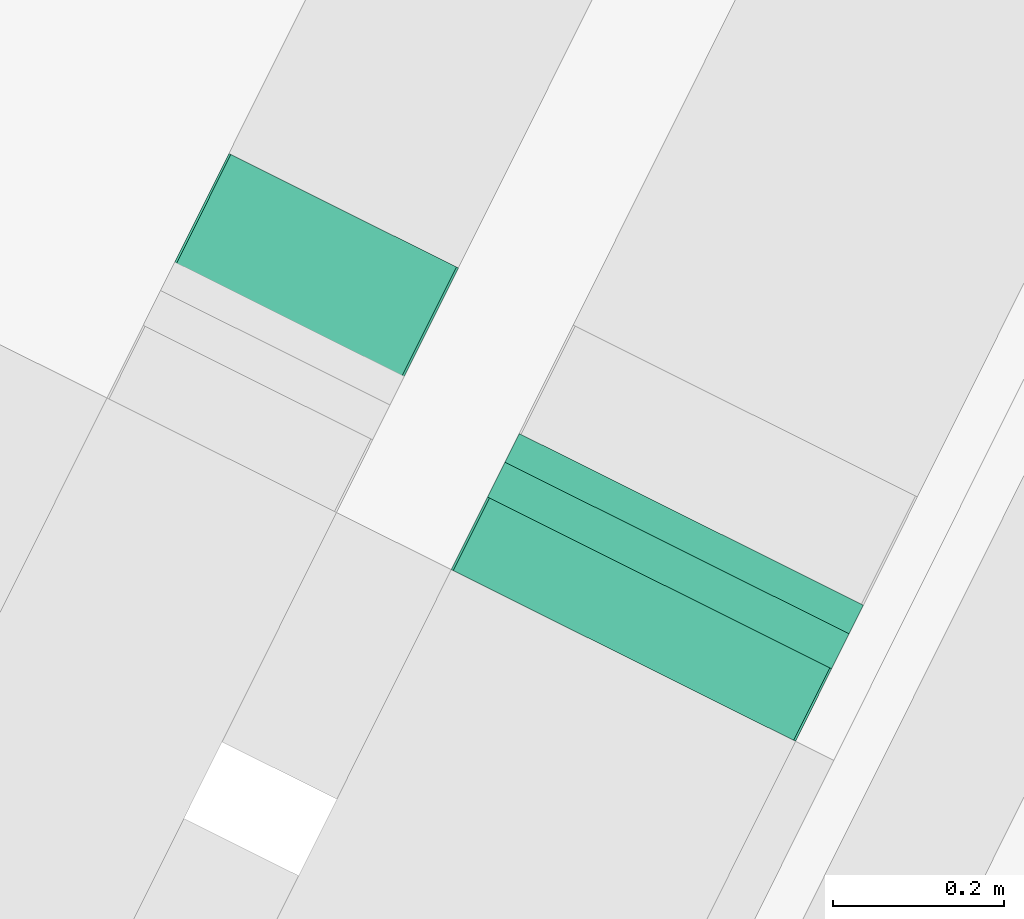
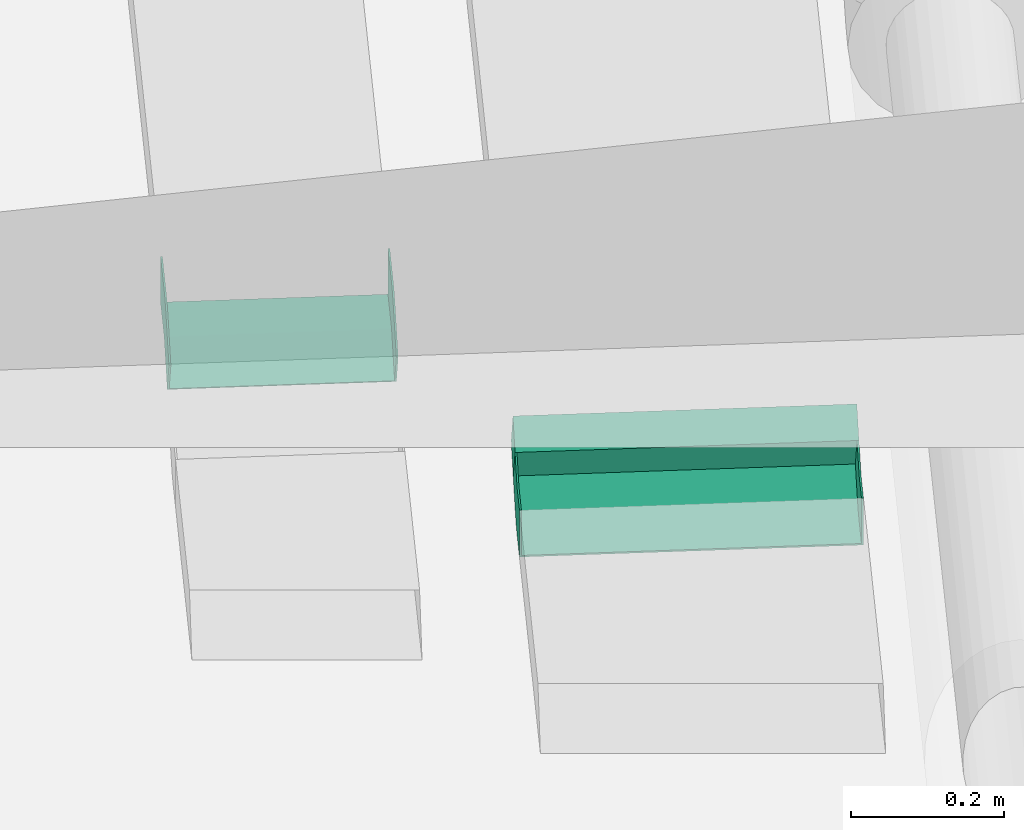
# One storey, part 76 of 91: 2 flow fittings, 1 flow segment.
"""IFC2X3 building model written with IfcOpenShell, lengths in metres."""

from ifc_helpers import new_model, entity, si_unit, converted_unit, derived_unit, direction, frame, frame_2d, origin, place, context, subcontext, project, spatial, rectangle, extrude, faceted_brep, source, transform, mapped, type_object, type_shapes, element, save


model = new_model("IFC2X3")

# Units and contexts
model_context = context("Model", 3, precision=1e-05, world=origin(), true_north=direction((0.894925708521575, 0.446215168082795)))
context_of_model = context(None, 3, precision=1e-05, world=origin(), true_north=direction((0.894925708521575, 0.446215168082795)))
body_context = subcontext(model_context, "Body", "Model", "MODEL_VIEW")
ifc_project = project(units=[si_unit("LENGTHUNIT", "METRE"), si_unit("AREAUNIT", "SQUARE_METRE"), si_unit("VOLUMEUNIT", "CUBIC_METRE"), converted_unit("PLANEANGLEUNIT", "DEGREE", entity("IfcRatioMeasure", 0.0174532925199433), si_unit("PLANEANGLEUNIT", "RADIAN"), dimensions=[0, 0, 0, 0, 0, 0, 0]), si_unit("MASSUNIT", "GRAM", prefix="KILO"), si_unit("TIMEUNIT", "SECOND"), si_unit("FREQUENCYUNIT", "HERTZ"), si_unit("THERMODYNAMICTEMPERATUREUNIT", "DEGREE_CELSIUS"), derived_unit("THERMALTRANSMITTANCEUNIT", [(si_unit("MASSUNIT", "GRAM", prefix="KILO"), 1), (si_unit("THERMODYNAMICTEMPERATUREUNIT", "KELVIN"), -1), (si_unit("TIMEUNIT", "SECOND"), -3)]), derived_unit("VOLUMETRICFLOWRATEUNIT", [(si_unit("LENGTHUNIT", "METRE"), 3), (si_unit("TIMEUNIT", "SECOND"), -1)]), si_unit("ELECTRICCURRENTUNIT", "AMPERE"), si_unit("ELECTRICVOLTAGEUNIT", "VOLT"), si_unit("POWERUNIT", "WATT"), si_unit("FORCEUNIT", "NEWTON", prefix="KILO"), si_unit("ILLUMINANCEUNIT", "LUX"), si_unit("LUMINOUSFLUXUNIT", "LUMEN"), si_unit("LUMINOUSINTENSITYUNIT", "CANDELA"), si_unit("PRESSUREUNIT", "PASCAL")], contexts=[model_context, context_of_model])

# Site, building, storey
site_placement = place(None, frame((218.228324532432, 584.720189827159, 0.0), z_axis=(0.0, 0.0, 1.0), x_axis=(0.446215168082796, 0.894925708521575, 0.0)))
site = spatial("IfcSite", under=ifc_project, at=site_placement, Name="Default", CompositionType="ELEMENT")
building_placement = place(site_placement, origin())
building = spatial("IfcBuilding", under=site, at=building_placement, CompositionType="ELEMENT")
storey_placement = place(building_placement, origin())
storey = spatial("IfcBuildingStorey", under=building, at=storey_placement, Name="0 - Piano Terra", CompositionType="ELEMENT", Elevation=0.0)

# Flow segment
cable_carrier_segment_type = type_object("IfcCableCarrierSegmentType", Name="Passerella con raccordi:Passerella canale", PredefinedType="NOTDEFINED")
flow_segment_placement = place(storey_placement, frame((-12.3895004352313, -4.20107899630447, 3.59822448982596)))
element("IfcFlowSegment", 1, at=flow_segment_placement, inside=storey, type_object=cable_carrier_segment_type, Name="Passerella con raccordi:Passerella canale", ObjectType="Passerella con raccordi:Passerella canale", context=body_context, shape_type="SweptSolid", body=[
    extrude(rectangle(XDim=0.0750000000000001, YDim=0.0527002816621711, at=frame_2d((-2.72351585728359e-16, 4.68375338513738e-16), x_axis=(0.0, 1.0))), frame((0.0415698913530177, 0.0, 0.045651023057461), z_axis=(0.0, 1.0, 0.0), x_axis=(0.866025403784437, 0.0, 0.500000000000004)), (0.0, 0.0, 1.0), 0.45),
])

# Flow fittings
cable_carrier_fitting_type_1 = type_object("IfcCableCarrierFittingType", Name="Standard", PredefinedType="NOTDEFINED")
shared_shape_1 = source(origin(), body_context, "Body", "Brep", [
    faceted_brep([(-0.0858988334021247, -0.0375000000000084, -0.150000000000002), (-0.0858988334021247, -0.0375000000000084, -0.147460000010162), (-0.0858988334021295, 0.0349600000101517, -0.147460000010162), (-0.0858988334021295, 0.0349600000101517, 0.147460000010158), (-0.0858988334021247, -0.0375000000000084, 0.147460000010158), (-0.0858988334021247, -0.0375000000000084, 0.149999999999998), (-0.0858988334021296, 0.0374999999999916, 0.149999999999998), (-0.0858988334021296, 0.0374999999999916, -0.150000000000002), (0.0556405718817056, 0.0754253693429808, -0.150000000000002), (0.0556405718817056, 0.0754253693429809, 0.149999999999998), (0.0931405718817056, 0.0104734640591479, 0.149999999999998), (0.0931405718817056, 0.0104734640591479, 0.147460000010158), (0.0569105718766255, 0.0732256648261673, 0.147460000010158), (0.0569105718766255, 0.0732256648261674, -0.147460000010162), (0.0931405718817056, 0.0104734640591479, -0.147460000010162), (0.0931405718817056, 0.0104734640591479, -0.150000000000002), (-0.0108988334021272, -0.0375000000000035, 0.149999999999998), (-0.000782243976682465, -0.0361681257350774, 0.149999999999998), (0.0093343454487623, -0.0348362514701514, 0.149999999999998), (0.0187615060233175, -0.0309313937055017, 0.149999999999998), (0.0281886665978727, -0.027026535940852, 0.149999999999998), (-0.00931133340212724, 0.0379253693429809, 0.149999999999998), (-0.0100770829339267, 0.0376081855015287, 0.149999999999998), (-0.0108988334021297, 0.0374999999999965, 0.149999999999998), (-0.0108988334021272, 0.0374999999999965, 0.142222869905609), (-0.0108988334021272, 0.0374999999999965, 0.136736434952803), (-0.0108988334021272, 0.0374999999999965, 0.131249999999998), (-0.0108988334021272, 0.0374999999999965, 0.121874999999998), (-0.0108988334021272, 0.0374999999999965, 0.112499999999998), (-0.0108988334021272, 0.0374999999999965, 0.103124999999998), (-0.0108988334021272, 0.0374999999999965, 0.0937499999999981), (-0.0108988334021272, 0.0374999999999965, 0.0890624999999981), (-0.0108988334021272, 0.0374999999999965, 0.0843749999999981), (-0.0108988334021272, 0.0374999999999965, 0.0749999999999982), (-0.0108988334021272, 0.0374999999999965, 0.0656249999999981), (-0.0108988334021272, 0.0374999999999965, 0.0562499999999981), (-0.0108988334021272, 0.0374999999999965, 0.0468749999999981), (-0.0108988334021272, 0.0374999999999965, 0.0374999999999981), (-0.0108988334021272, 0.0374999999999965, 0.0328124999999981), (-0.0108988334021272, 0.0374999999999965, 0.0281249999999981), (-0.0108988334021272, 0.0374999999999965, 0.0187499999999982), (-0.0108988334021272, 0.0374999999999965, 0.00937499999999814), (-0.0108988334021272, 0.0374999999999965, 0.00468749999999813), (-0.0108988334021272, 0.0374999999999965, 0.0), (-0.0108988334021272, 0.0374999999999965, -0.00548643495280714), (-0.0108988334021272, 0.0374999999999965, -0.0109728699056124), (-0.0108988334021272, 0.0374999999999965, -0.0164593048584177), (-0.0108988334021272, 0.0374999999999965, -0.021945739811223), (-0.0108988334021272, 0.0374999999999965, -0.0274321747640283), (-0.0108988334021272, 0.0374999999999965, -0.0329186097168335), (-0.0108988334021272, 0.0374999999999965, -0.0384050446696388), (-0.0108988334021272, 0.0374999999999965, -0.0438914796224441), (-0.0108988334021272, 0.0374999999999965, -0.0493779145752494), (-0.0108988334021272, 0.0374999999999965, -0.0548643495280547), (-0.0108988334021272, 0.0374999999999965, -0.06035078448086), (-0.0108988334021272, 0.0374999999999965, -0.0658372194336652), (-0.0108988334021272, 0.0374999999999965, -0.0713236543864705), (-0.0108988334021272, 0.0374999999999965, -0.0768100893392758), (-0.0108988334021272, 0.0374999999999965, -0.0822965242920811), (-0.0108988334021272, 0.0374999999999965, -0.0877829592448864), (-0.0108988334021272, 0.0374999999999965, -0.0955600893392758), (-0.0108988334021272, 0.0374999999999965, -0.103337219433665), (-0.0108988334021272, 0.0374999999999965, -0.111114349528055), (-0.0108988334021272, 0.0374999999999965, -0.118891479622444), (-0.0108988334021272, 0.0374999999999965, -0.126668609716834), (-0.0108988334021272, 0.0374999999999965, -0.134445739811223), (-0.0108988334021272, 0.0374999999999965, -0.142222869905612), (-0.0108988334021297, 0.0374999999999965, -0.150000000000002), (-0.0100770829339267, 0.0376081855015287, -0.150000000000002), (-0.00931133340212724, 0.0379253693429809, -0.150000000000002), (0.0281886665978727, -0.027026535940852, -0.150000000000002), (0.0187615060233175, -0.0309313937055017, -0.150000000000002), (0.0093343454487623, -0.0348362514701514, -0.150000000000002), (-0.00136101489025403, -0.0362443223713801, -0.150000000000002), (-0.0108988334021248, -0.0375000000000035, -0.150000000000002), (-0.0108988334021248, -0.0375000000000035, -0.147460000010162), (-0.0108988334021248, -0.0375000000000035, 0.147460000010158), (-0.000782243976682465, -0.0361681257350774, -0.147460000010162), (0.0093343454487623, -0.0348362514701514, -0.147460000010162), (0.0187615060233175, -0.0309313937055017, -0.147460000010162), (0.0281886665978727, -0.027026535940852, -0.147460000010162), (-0.00804133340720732, 0.0357256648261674, -0.147460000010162), (-0.00941968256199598, 0.0351547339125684, -0.147460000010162), (-0.0108988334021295, 0.0349600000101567, -0.147460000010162), (-0.0108988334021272, 0.0349600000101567, -0.137025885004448), (-0.0108988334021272, 0.0349600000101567, -0.126591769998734), (-0.0108988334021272, 0.0349600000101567, -0.11615765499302), (-0.0108988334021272, 0.0349600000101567, -0.105723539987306), (-0.0108988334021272, 0.0349600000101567, -0.0952894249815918), (-0.0108988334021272, 0.0349600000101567, -0.0848553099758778), (-0.0108988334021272, 0.0349600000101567, -0.0744211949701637), (-0.0108988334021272, 0.0349600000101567, -0.0639870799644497), (-0.0108988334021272, 0.0349600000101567, -0.0479903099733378), (-0.0108988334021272, 0.0349600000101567, -0.0319935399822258), (-0.0108988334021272, 0.0349600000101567, -0.0159967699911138), (-0.0108988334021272, 0.0349600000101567, 0.0), (-0.0108988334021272, 0.0349600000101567, 0.0184325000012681), (-0.0108988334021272, 0.0349600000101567, 0.0368650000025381), (-0.0108988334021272, 0.0349600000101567, 0.0552975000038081), (-0.0108988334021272, 0.0349600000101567, 0.0737300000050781), (-0.0108988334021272, 0.0349600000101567, 0.0921625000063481), (-0.0108988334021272, 0.0349600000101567, 0.110595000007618), (-0.0108988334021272, 0.0349600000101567, 0.12659176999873), (-0.0108988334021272, 0.0349600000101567, 0.137025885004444), (-0.0108988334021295, 0.0349600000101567, 0.147460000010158), (-0.00941968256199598, 0.0351547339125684, 0.147460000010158), (-0.00804133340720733, 0.0357256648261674, 0.147460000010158), (0.0281886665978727, -0.027026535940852, 0.147460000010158), (0.0193008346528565, -0.0307079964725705, 0.147460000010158), (0.0093343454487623, -0.0348362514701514, 0.147460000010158), (-0.000782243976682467, -0.0361681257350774, 0.147460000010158), (-0.0100160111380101, 0.0376252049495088, 0.0878571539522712), (-0.00931133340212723, 0.0379253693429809, -0.0786763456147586), (-0.0101159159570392, 0.0375980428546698, -0.0740668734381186), (-0.00931133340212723, 0.0379253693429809, -0.0677034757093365), (-0.00931133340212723, 0.0379253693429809, -0.0731899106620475), (-0.00931133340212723, 0.0379253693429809, -0.0512441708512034), (-0.00931133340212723, 0.0379253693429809, -0.0567306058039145), (-0.0101159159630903, 0.0375980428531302, -0.052121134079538), (-0.00931133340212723, 0.0379253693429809, -0.0457577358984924), (-0.0100430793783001, 0.0376174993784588, 0.017385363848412), (-0.0100062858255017, 0.0376280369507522, 0.0107980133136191), (-0.00999532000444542, 0.0376312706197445, 0.122780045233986), (-0.0101719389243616, 0.0375843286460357, 0.0236284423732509), (-0.00931133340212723, 0.0379253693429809, 0.0200794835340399), (-0.00931133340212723, 0.0379253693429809, -0.146111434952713), (-0.00931133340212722, 0.0379253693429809, 0.134445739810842), (-0.0100770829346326, 0.0376081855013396, 0.138334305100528), (-0.00931133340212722, 0.0379253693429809, 0.14222286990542), (-0.0100060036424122, 0.0376281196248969, -0.142569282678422), (-0.010097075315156, 0.0376028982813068, 0.0605630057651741), (-0.00931133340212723, 0.0379253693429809, 0.0566744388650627), (-0.0100663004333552, 0.0376110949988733, 0.054247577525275), (-0.0100389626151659, 0.0376186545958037, -0.119824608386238), (-0.0101157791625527, 0.0375980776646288, -0.129790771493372), (-0.01011591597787, 0.0375980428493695, -0.0301753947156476), (-0.0100662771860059, 0.0376111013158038, 0.0824060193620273), (-0.00931133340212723, 0.0379253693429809, 0.0800058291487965), (-0.0099977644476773, 0.0376305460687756, 0.0761172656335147), (-0.0100563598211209, 0.0376138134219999, 0.0388108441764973), (-0.00931133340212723, 0.0379253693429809, 0.0411201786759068), (-0.00931133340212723, 0.0379253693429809, 0.0333430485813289), (-0.00931133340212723, 0.0379253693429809, -0.0347848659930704), (-0.00931133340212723, 0.0379253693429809, -0.0238119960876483), (-0.00931133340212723, 0.0379253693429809, -0.0292984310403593), (-0.00931133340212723, 0.0379253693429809, -0.0128391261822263), (-0.0101159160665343, 0.0375980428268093, -0.00822965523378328), (-0.00931133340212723, 0.0379253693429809, -0.00186625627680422), (-0.00931133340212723, 0.0379253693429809, -0.00735269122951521), (-0.010022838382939, 0.0376232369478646, 0.144167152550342), (-0.00931133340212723, 0.0379253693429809, 0.0488973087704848), (-0.0100105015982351, 0.0376268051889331, 0.0450087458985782), (-0.0100992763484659, 0.0376023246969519, 0.00234375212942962), (-0.0101111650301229, 0.0375992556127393, 0.06937590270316), (-0.00931133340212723, 0.0379253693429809, 0.0145930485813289), (-0.0100494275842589, 0.0376157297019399, -0.136209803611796), (-0.0101258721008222, 0.0375955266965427, -0.0371719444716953), (-0.00931133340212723, 0.0379253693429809, -0.0402713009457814), (-0.0100191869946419, 0.0376242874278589, -0.0434785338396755), (-0.0101258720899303, 0.0375955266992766, -0.0591176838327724), (-0.0100602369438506, 0.0376127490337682, -0.0934055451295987), (-0.0100098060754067, 0.0376270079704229, -0.11311245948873), (-0.010067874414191, 0.0376106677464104, 0.0994486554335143), (-0.0100492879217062, 0.0376157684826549, 0.0933153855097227), (-0.00931133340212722, 0.0379253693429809, 0.111114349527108), (-0.00931133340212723, 0.0379253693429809, 0.10333721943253), (-0.010108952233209, 0.0375998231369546, 0.109805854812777), (-0.0100522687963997, 0.0376149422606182, 0.132170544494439), (-0.00931133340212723, 0.0379253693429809, -0.13902713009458), (-0.010106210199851, 0.0376005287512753, 0.116092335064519), (-0.00931133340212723, 0.0379253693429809, -0.133540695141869), (-0.0101258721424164, 0.0375955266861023, -0.0152262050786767), (-0.0100191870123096, 0.0376242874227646, -0.0215327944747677), (-0.00931133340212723, 0.0379253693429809, -0.0183255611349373), (-0.0101258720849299, 0.0375955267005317, -0.0810634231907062), (-0.0100191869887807, 0.037624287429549, -0.0654242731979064), (-0.00931133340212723, 0.0379253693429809, -0.0622170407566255), (-0.00931133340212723, 0.0379253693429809, -0.0896492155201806), (-0.00931133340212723, 0.0379253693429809, -0.0951356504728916), (-0.0100191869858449, 0.0376242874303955, -0.0873700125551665), (-0.00931133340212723, 0.0379253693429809, -0.0841627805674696), (-0.00931133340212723, 0.0379253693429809, -0.122567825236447), (-0.00931133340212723, 0.0379253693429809, -0.117081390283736), (-0.0101042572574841, 0.0376010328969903, -0.105576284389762), (-0.00931133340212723, 0.0379253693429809, -0.106108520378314), (-0.00931133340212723, 0.0379253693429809, -0.111594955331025), (-0.00931133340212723, 0.0379253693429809, -0.100622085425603), (-0.00931133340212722, 0.0379253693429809, 0.126668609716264), (-0.00931133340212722, 0.0379253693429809, 0.118891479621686), (-0.00931133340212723, 0.0379253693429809, -0.128054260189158), (-0.00931133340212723, 0.0379253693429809, 0.0955600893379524), (-0.00931133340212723, 0.0379253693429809, 0.0877829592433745), (-0.00931133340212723, 0.0379253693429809, 0.0722286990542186), (-0.00931133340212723, 0.0379253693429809, 0.0644515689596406), (-0.0100612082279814, 0.0376124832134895, 0.0304687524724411), (-0.00931133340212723, 0.0379253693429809, 0.0255659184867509), (-0.00931133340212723, 0.0379253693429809, 0.00910661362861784), (-0.00931133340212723, 0.0379253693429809, 0.00362017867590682), (-0.0100571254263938, 0.0376136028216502, -0.0994486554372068), (-0.00941968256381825, 0.0351547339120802, -0.0559886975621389), (-0.00804133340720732, 0.0357256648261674, -0.0535529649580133), (-0.00943516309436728, 0.0351506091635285, -0.0450563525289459), (-0.00941968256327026, 0.035154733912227, -0.0670727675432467), (-0.00941968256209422, 0.0351547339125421, -0.131808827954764), (-0.00941968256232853, 0.0351547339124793, -0.118338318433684), (-0.00941968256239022, 0.0351547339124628, -0.107538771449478), (-0.00941968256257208, 0.0351547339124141, -0.0931087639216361), (-0.00941968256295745, 0.0351547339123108, -0.0796382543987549), (-0.00804133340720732, 0.0357256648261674, 0.131463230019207), (-0.00951383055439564, 0.0351303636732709, 0.119704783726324), (-0.00804133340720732, 0.0357256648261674, 0.115466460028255), (-0.009539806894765, 0.035123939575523, 0.0276487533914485), (-0.00938820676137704, 0.0351632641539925, 0.0142687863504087), (-0.00944772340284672, 0.0351472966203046, 0.0964175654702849), (-0.00938732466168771, 0.0351635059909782, 0.00298298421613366), (-0.00804133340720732, 0.0357256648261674, -0.137025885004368), (-0.00804133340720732, 0.0357256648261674, -0.126591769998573), (-0.00804133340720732, 0.0357256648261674, -0.116157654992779), (-0.00804133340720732, 0.0357256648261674, -0.105723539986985), (-0.00804133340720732, 0.0357256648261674, -0.0952894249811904), (-0.00804133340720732, 0.0357256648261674, -0.0848553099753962), (-0.00804133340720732, 0.0357256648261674, -0.0744211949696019), (-0.00804133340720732, 0.0357256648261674, -0.0639870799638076), (-0.00960988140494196, 0.0351072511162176, 0.0843997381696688), (-0.00931691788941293, 0.0351833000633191, 0.0731869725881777), (-0.00804133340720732, 0.0357256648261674, -0.0326847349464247), (-0.00804133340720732, 0.0357256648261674, -0.0222506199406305), (-0.00939822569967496, 0.0351605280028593, -0.0274676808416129), (-0.00938352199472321, 0.0351645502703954, 0.0609207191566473), (-0.00804133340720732, 0.0357256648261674, 0.0194858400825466), (-0.00804133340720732, 0.0357256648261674, 0.0354826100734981), (-0.0092916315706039, 0.0351906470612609, -0.0159019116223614), (-0.00950624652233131, 0.0351322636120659, 0.131808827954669), (-0.0092516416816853, 0.0352025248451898, 0.107597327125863), (-0.00804133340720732, 0.0357256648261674, 0.0834729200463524), (-0.00804133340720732, 0.0357256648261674, 0.0994696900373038), (-0.00804133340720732, 0.0357256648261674, 0.0674761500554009), (-0.00804133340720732, 0.0357256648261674, -0.043118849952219), (-0.00939896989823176, 0.0351603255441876, 0.0385250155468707), (-0.00953825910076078, 0.0351243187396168, 0.0497283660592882), (-0.00804133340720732, 0.0357256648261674, 0.00905172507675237), (-0.00804133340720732, 0.0357256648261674, -0.0118165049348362), (-0.00804133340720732, 0.0357256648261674, -0.00138238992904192), (-0.00804133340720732, 0.0357256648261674, 0.0514793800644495)], [[[0, 1, 2, 3, 4, 5, 6, 7]], [[8, 9, 10, 11, 12, 13, 14, 15]], [[5, 16, 17, 18, 19, 20, 10, 9, 21, 22, 23, 6]], [[7, 6, 23, 24, 25, 26, 27, 28, 29, 30, 31, 32, 33, 34, 35, 36, 37, 38, 39, 40, 41, 42, 43, 44, 45, 46, 47, 48, 49, 50, 51, 52, 53, 54, 55, 56, 57, 58, 59, 60, 61, 62, 63, 64, 65, 66, 67]], [[7, 67, 68, 69, 8, 15, 70, 71, 72, 73, 74, 0]], [[1, 0, 74, 75]], [[5, 4, 76, 16]], [[1, 75, 77, 78, 79, 80, 14, 13, 81, 82, 83, 2]], [[3, 2, 83, 84, 85, 86, 87, 88, 89, 90, 91, 92, 93, 94, 95, 96, 97, 98, 99, 100, 101, 102, 103, 104]], [[3, 104, 105, 106, 12, 11, 107, 108, 109, 110, 76, 4]], [[31, 111, 32]], [[112, 113, 114, 115]], [[116, 117, 118, 119]], [[57, 56, 113]], [[53, 52, 118]], [[120, 121, 41]], [[122, 27, 26]], [[123, 124, 120]], [[125, 69, 68]], [[126, 127, 128]], [[68, 129, 125]], [[130, 131, 132]], [[133, 134, 64]], [[49, 48, 135]], [[136, 137, 138]], [[139, 140, 141]], [[142, 135, 143, 144]], [[145, 146, 147, 148]], [[149, 128, 127]], [[150, 151, 132]], [[152, 147, 146]], [[33, 153, 34]], [[151, 140, 139]], [[120, 154, 121]], [[129, 66, 155]], [[156, 157, 158]], [[118, 117, 159]], [[59, 160, 60]], [[161, 63, 62]], [[34, 153, 130]], [[162, 163, 30]], [[164, 165, 166]], [[26, 25, 167]], [[129, 168, 125]], [[169, 164, 166]], [[127, 24, 149]], [[155, 134, 170]], [[127, 126, 167]], [[65, 155, 66]], [[149, 24, 23]], [[68, 67, 66]], [[25, 24, 127]], [[149, 22, 21]], [[146, 145, 171]], [[135, 142, 156]], [[172, 171, 173]], [[113, 112, 174]], [[175, 159, 176]], [[177, 178, 160]], [[179, 174, 180]], [[127, 167, 25]], [[155, 168, 129]], [[66, 129, 68]], [[170, 168, 155]], [[133, 181, 134]], [[161, 182, 133]], [[65, 134, 155]], [[183, 161, 62]], [[133, 63, 161]], [[181, 133, 182]], [[63, 133, 64]], [[184, 185, 183, 186]], [[187, 122, 167]], [[42, 152, 44, 43]], [[122, 26, 167]], [[188, 122, 187]], [[169, 122, 188]], [[167, 126, 187]], [[189, 170, 134, 181]], [[28, 27, 169]], [[122, 169, 27]], [[166, 29, 28]], [[166, 28, 169]], [[169, 188, 164]], [[162, 190, 163]], [[190, 162, 165]], [[162, 29, 166]], [[165, 162, 166]], [[29, 162, 30]], [[138, 33, 136]], [[163, 190, 191]], [[32, 111, 136]], [[137, 192, 138]], [[32, 136, 33]], [[136, 191, 137]], [[192, 153, 138]], [[138, 153, 33]], [[131, 130, 193]], [[35, 130, 132]], [[153, 192, 193]], [[31, 30, 163]], [[193, 130, 153]], [[130, 35, 34]], [[191, 136, 111]], [[37, 151, 139]], [[36, 132, 151]], [[36, 35, 132]], [[140, 151, 150]], [[132, 131, 150]], [[36, 151, 37]], [[39, 194, 123]], [[38, 37, 139]], [[38, 194, 39]], [[123, 194, 195]], [[139, 141, 194]], [[139, 194, 38]], [[194, 141, 195]], [[123, 40, 39]], [[40, 123, 120]], [[40, 120, 41]], [[123, 195, 124]], [[42, 41, 121]], [[121, 196, 152]], [[121, 152, 42]], [[128, 149, 21]], [[171, 45, 146]], [[44, 146, 45]], [[48, 47, 46, 172]], [[171, 172, 46]], [[146, 44, 152]], [[152, 196, 197, 147]], [[172, 143, 135]], [[156, 49, 135]], [[172, 135, 48]], [[51, 50, 158, 52]], [[55, 54, 175, 56]], [[156, 158, 50]], [[158, 119, 118]], [[159, 53, 118]], [[158, 118, 52]], [[159, 175, 54]], [[175, 114, 113]], [[174, 57, 113]], [[175, 113, 56]], [[61, 183, 62]], [[59, 58, 179]], [[174, 179, 58]], [[60, 198, 61]], [[179, 177, 160]], [[160, 178, 198]], [[61, 198, 183]], [[198, 186, 183]], [[124, 154, 120]], [[172, 173, 143]], [[158, 157, 119]], [[175, 176, 114]], [[179, 180, 177]], [[185, 161, 183]], [[179, 160, 59]], [[160, 198, 60]], [[121, 154, 196]], [[23, 22, 149]], [[185, 182, 161]], [[145, 173, 171]], [[142, 157, 156]], [[117, 176, 159]], [[112, 180, 174]], [[64, 134, 65]], [[111, 163, 191]], [[163, 111, 31]], [[46, 45, 171]], [[50, 49, 156]], [[54, 53, 159]], [[58, 57, 174]], [[198, 178, 186]], [[77, 75, 74, 73, 72, 78]], [[76, 110, 109, 18, 17, 16]], [[79, 78, 72, 71, 70, 80]], [[109, 108, 107, 20, 19, 18]], [[199, 200, 201]], [[202, 199, 92, 91, 90, 89, 88, 87, 86, 85, 84, 83, 82, 203, 204, 205, 206, 207]], [[105, 104, 103]], [[208, 209, 210]], [[211, 96, 212]], [[213, 101, 100]], [[95, 214, 212]], [[206, 205, 204, 203, 82, 81, 215, 216, 217, 218, 219, 220, 221, 222, 200, 199, 202, 207]], [[106, 105, 208]], [[223, 99, 224]], [[225, 226, 227]], [[99, 228, 224]], [[211, 229, 230]], [[231, 95, 94]], [[94, 227, 231]], [[208, 232, 209]], [[209, 101, 233]], [[105, 103, 232]], [[102, 232, 103]], [[232, 102, 209]], [[105, 232, 208]], [[102, 101, 209]], [[234, 235, 213]], [[233, 213, 235]], [[210, 209, 233]], [[234, 213, 223]], [[235, 210, 233]], [[101, 213, 233]], [[213, 100, 223]], [[100, 99, 223]], [[224, 228, 236]], [[201, 92, 199]], [[223, 224, 234]], [[211, 97, 96]], [[200, 237, 225, 201]], [[97, 211, 238]], [[97, 238, 239]], [[240, 212, 214]], [[229, 212, 240]], [[95, 212, 96]], [[229, 211, 212]], [[238, 211, 230]], [[93, 92, 201]], [[227, 94, 93]], [[227, 201, 225]], [[227, 226, 231]], [[201, 227, 93]], [[231, 226, 241, 242]], [[231, 242, 214]], [[230, 243, 238]], [[243, 228, 239]], [[228, 99, 98]], [[234, 224, 236]], [[239, 228, 98]], [[243, 236, 228]], [[97, 239, 98]], [[243, 239, 238]], [[231, 214, 95]], [[240, 214, 242]], [[9, 8, 69, 125, 168, 170, 189, 181, 182, 185, 184, 186, 178, 177, 180, 112, 115, 114, 176, 117, 116, 119, 157, 142, 144, 143, 173, 145, 148, 147, 197, 196, 154, 124, 195, 141, 140, 150, 131, 193, 192, 137, 191, 190, 165, 164, 188, 187, 126, 128, 21]], [[80, 70, 15, 14]], [[20, 107, 11, 10]], [[12, 106, 208, 210, 235, 234, 236, 243, 230, 229, 240, 242, 241, 226, 225, 237, 200, 222, 221, 220, 219, 218, 217, 216, 215, 81, 13]]]),
])
type_shapes(cable_carrier_fitting_type_1, [shared_shape_1])
flow_fitting_1_placement = place(storey_placement, frame((-12.2507200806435, -3.45107899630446, 3.80000000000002), z_axis=(0.0, -1.0, 0.0), x_axis=(-1.0, 0.0, 0.0)))
element("IfcFlowFitting", 2, at=flow_fitting_1_placement, inside=storey, type_object=cable_carrier_fitting_type_1, Name="M_Curvatura esterna verticale canale:Standard", ObjectType="Standard", context=body_context, shape_type="MappedRepresentation", body=[
    mapped(shared_shape_1, transform((0.0, 0.0, 0.0), scale=1.0)),
])
cable_carrier_fitting_type_2 = type_object("IfcCableCarrierFittingType", Name="Standard", PredefinedType="NOTDEFINED")
shared_shape_2 = source(origin(), body_context, "Body", "Brep", [
    faceted_brep([(-0.0608988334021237, -0.0349600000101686, -0.222460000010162), (-0.0608988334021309, 0.0374999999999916, -0.222460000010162), (-0.0608988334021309, 0.0374999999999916, -0.225000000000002), (-0.0608988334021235, -0.0375000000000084, -0.225000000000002), (-0.0608988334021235, -0.0375000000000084, 0.224999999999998), (-0.0608988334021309, 0.0374999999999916, 0.224999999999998), (-0.0608988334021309, 0.0374999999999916, 0.222460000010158), (-0.0608988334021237, -0.0349600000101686, 0.222460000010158), (0.0339899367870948, 0.0629253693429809, -0.225000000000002), (0.0339899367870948, 0.0629253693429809, -0.222460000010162), (0.0702199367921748, 0.00017316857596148, -0.222460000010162), (0.0702199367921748, 0.000173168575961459, 0.222460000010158), (0.0339899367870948, 0.0629253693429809, 0.222460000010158), (0.0339899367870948, 0.0629253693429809, 0.224999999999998), (0.0714899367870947, -0.00202653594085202, 0.224999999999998), (0.0714899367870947, -0.00202653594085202, -0.225000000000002), (-0.0108988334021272, -0.0375000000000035, 0.224999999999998), (0.00933434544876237, -0.0348362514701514, 0.224999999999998), (0.0281886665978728, -0.027026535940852, 0.224999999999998), (-0.00931133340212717, 0.0379253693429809, 0.224999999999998), (-0.0100770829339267, 0.0376081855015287, 0.224999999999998), (-0.0108988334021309, 0.0374999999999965, 0.224999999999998), (-0.0108988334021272, -0.0375000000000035, -0.225000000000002), (-0.0108988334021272, -0.0375000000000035, -0.0837247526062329), (-0.0108988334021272, -0.0375000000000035, 0.0706376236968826), (-0.0108988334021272, 0.0374999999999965, -0.225000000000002), (-0.0100770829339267, 0.0376081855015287, -0.225000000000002), (-0.00931133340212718, 0.0379253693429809, -0.225000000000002), (0.0281886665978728, -0.027026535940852, -0.225000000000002), (0.00933434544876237, -0.0348362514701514, -0.225000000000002), (-0.0108988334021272, 0.0374999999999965, -0.222460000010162), (-0.0108988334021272, 0.0374999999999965, 0.222460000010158), (-0.0108988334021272, -0.0349600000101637, -0.222460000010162), (0.00867694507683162, -0.0323827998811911, -0.222460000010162), (0.0269186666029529, -0.0248268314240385, -0.222460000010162), (-0.00931133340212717, 0.0379253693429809, -0.222460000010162), (-0.0100770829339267, 0.0376081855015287, -0.222460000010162), (-0.0108988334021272, -0.0349600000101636, 0.222460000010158), (-0.0108988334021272, -0.0349600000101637, 0.0706260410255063), (-0.0108988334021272, -0.0349600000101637, -0.0812079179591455), (-0.0100770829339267, 0.0376081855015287, 0.222460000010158), (-0.00931133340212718, 0.0379253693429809, 0.222460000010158), (0.0269186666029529, -0.0248268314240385, 0.222460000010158), (0.00867694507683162, -0.0323827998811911, 0.222460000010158), (0.0281886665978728, -0.027026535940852, -0.0837247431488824), (0.0281886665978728, -0.027026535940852, 0.0706376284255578), (0.00933434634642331, -0.0348362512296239, -0.00654356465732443), (0.0269186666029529, -0.0248268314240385, -0.0812079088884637), (0.0269186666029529, -0.0248268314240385, 0.0706260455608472), (0.00867694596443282, -0.0323827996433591, -0.00529093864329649)], [[[0, 1, 2, 3, 4, 5, 6, 7]], [[8, 9, 10, 11, 12, 13, 14, 15]], [[4, 16, 17, 18, 14, 13, 19, 20, 21, 5]], [[4, 3, 22, 23, 24, 16]], [[2, 25, 26, 27, 8, 15, 28, 29, 22, 3]], [[2, 1, 30, 25]], [[6, 5, 21, 31]], [[0, 32, 33, 34, 10, 9, 35, 36, 30, 1]], [[0, 7, 37, 38, 39, 32]], [[6, 31, 40, 41, 12, 11, 42, 43, 37, 7]], [[44, 29, 28]], [[18, 17, 45]], [[46, 44, 45]], [[17, 16, 24]], [[29, 23, 22]], [[29, 46, 23]], [[24, 46, 17]], [[46, 29, 44]], [[45, 17, 46]], [[23, 46, 24]], [[30, 36, 26, 25]], [[20, 40, 31, 21]], [[35, 27, 26, 36]], [[19, 41, 40, 20]], [[34, 33, 47]], [[48, 43, 42]], [[48, 47, 49]], [[38, 37, 43]], [[32, 39, 33]], [[39, 49, 33]], [[43, 49, 38]], [[47, 33, 49]], [[49, 43, 48]], [[38, 49, 39]], [[15, 14, 18, 45, 44, 28]], [[27, 35, 9, 8]], [[41, 19, 13, 12]], [[11, 10, 34, 47, 48, 42]]]),
])
type_shapes(cable_carrier_fitting_type_2, [shared_shape_2])
flow_fitting_2_placement = place(storey_placement, frame((-12.4234903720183, -3.97607899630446, 3.60025102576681), z_axis=(0.0, -1.0, 0.0), x_axis=(1.0, 0.0, 0.0)))
element("IfcFlowFitting", 3, at=flow_fitting_2_placement, inside=storey, type_object=cable_carrier_fitting_type_2, Name="M_Curvatura interna verticale canale:Standard", ObjectType="Standard", context=body_context, shape_type="MappedRepresentation", body=[
    mapped(shared_shape_2, transform((0.0, 0.0, 0.0), scale=1.0)),
])

save(model, "model.ifc")
